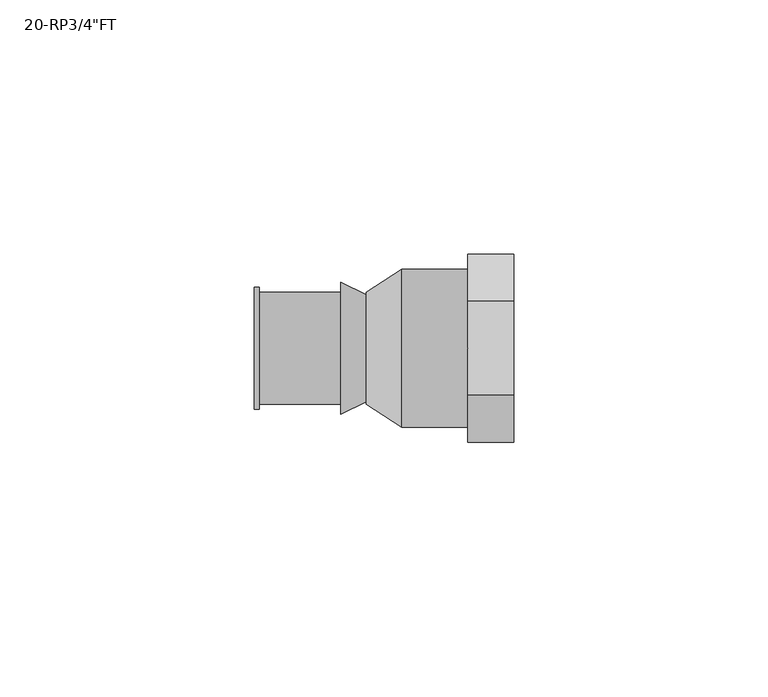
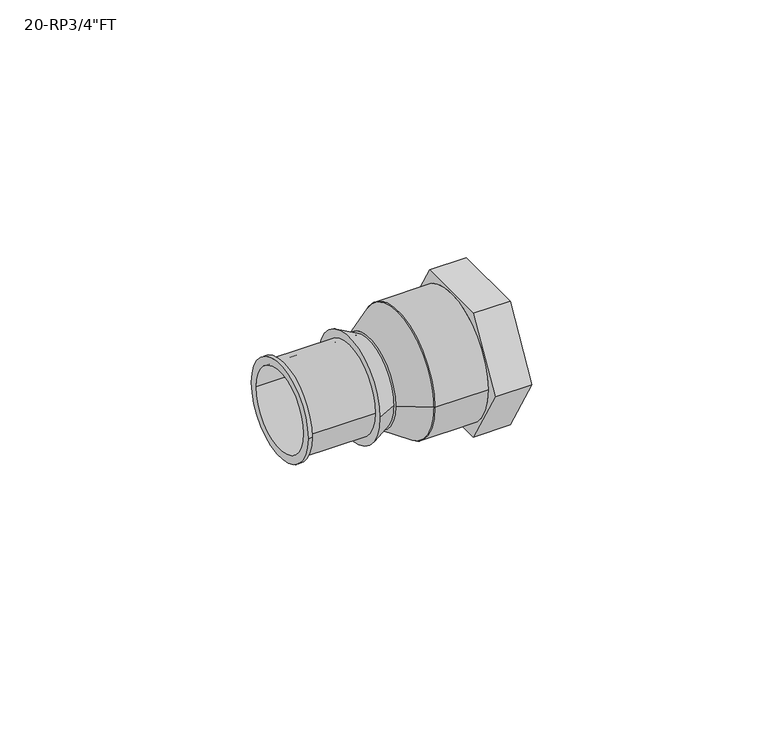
"""IFC4 building model written with IfcOpenShell, lengths in millimetres: pipe fitting geometry."""

from ifc_helpers import new_model, si_unit, frame, origin, place, context, project, spatial, polyline, circle_curve, source, transform, mapped, element, save
from ifc_brep_helpers import plane_surface, cylinder_surface, revolved_surface, advanced_brep


def pipe_fitting_40a9fcae(model_context):
    return source(origin(), model_context, "Body", "AdvancedBrep", [
        advanced_brep(
        [(2.0, -15.5, 0.0), (2.0, 15.5, 0.0), (2.0, -12.0, 0.0), (2.0, 12.0, 0.0), (24.0, -18.4752086, 0.0), (24.0, -9.2376043, -16.0), (24.0, 9.2376043, -16.0), (24.0, 18.4752086, 0.0), (24.0, 9.2376043, 16.0), (24.0, -9.2376043, 16.0), (24.0, -12.0, 0.0), (24.0, 12.0, 0.0), (15.0, -15.5, 0.0), (15.0, 15.5, 0.0), (15.0, -12.0, 0.0), (15.0, 12.0, 0.0), (15.0, -18.4752086, 0.0), (15.0, -9.2376043, 16.0), (15.0, 9.2376043, 16.0), (15.0, 18.4752086, 0.0), (15.0, 9.2376043, -16.0), (15.0, -9.2376043, -16.0)],
        [
            (0, 1, circle_curve(frame((2.0, 0.0, 0.0), z_axis=(-1.0, 0.0, 0.0), x_axis=(0.0, 1.0, 0.0)), 15.5)),
            (1, 0, circle_curve(frame((2.0, 0.0, 0.0), z_axis=(-1.0, 0.0, 0.0), x_axis=(0.0, 1.0, 0.0)), 15.5)),
            (2, 3, circle_curve(frame((2.0, 0.0, 0.0), z_axis=(1.0, 0.0, 0.0), x_axis=(0.0, 1.0, 0.0)), 12.0)),
            (3, 2, circle_curve(frame((2.0, 0.0, 0.0), z_axis=(1.0, 0.0, 0.0), x_axis=(0.0, 1.0, 0.0)), 12.0)),
            (4, 5),
            (5, 6),
            (6, 7),
            (7, 8),
            (8, 9),
            (9, 4),
            (10, 11, circle_curve(frame((24.0, 0.0, 0.0), z_axis=(-1.0, 0.0, 0.0), x_axis=(0.0, 1.0, 0.0)), 12.0)),
            (11, 10, circle_curve(frame((24.0, 0.0, 0.0), z_axis=(-1.0, 0.0, 0.0), x_axis=(0.0, 1.0, 0.0)), 12.0)),
            (0, 12),
            (12, 13, circle_curve(frame((15.0, 0.0, 0.0), z_axis=(-1.0, 0.0, 0.0), x_axis=(0.0, 1.0, 0.0)), 15.5)),
            (13, 1),
            (13, 12, circle_curve(frame((15.0, 0.0, 0.0), z_axis=(-1.0, 0.0, 0.0), x_axis=(0.0, 1.0, 0.0)), 15.5)),
            (2, 14),
            (14, 10),
            (11, 15),
            (15, 3),
            (16, 17),
            (17, 18),
            (18, 19),
            (19, 20),
            (20, 21),
            (21, 16),
            (16, 4),
            (9, 17),
            (8, 18),
            (7, 19),
            (6, 20),
            (5, 21),
        ],
        [
            plane_surface(frame((2.0, 0.0, 0.0), z_axis=(-1.0, 0.0, 0.0), x_axis=(0.0, 0.0, 1.0))),
            plane_surface(frame((24.0, 0.0, 0.0), z_axis=(1.0, 0.0, 0.0), x_axis=(0.0, 0.0, 1.0))),
            cylinder_surface(frame((2.0, 0.0, 0.0), z_axis=(-1.0, 0.0, 0.0), x_axis=(0.0, 1.0, 0.0)), 15.5),
            revolved_surface(polyline([(24.0, 12.0, 0.0), (2.0, 12.0, 0.0)]), (2.0, 0.0, 0.0), (1.0, 0.0, 0.0)),
            plane_surface(frame((15.0, 0.0, 0.0), z_axis=(-1.0, 0.0, 0.0), x_axis=(0.0, 0.0, 1.0))),
            plane_surface(frame((15.0, -18.4752086, 0.0), z_axis=(0.0, -0.8660254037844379, 0.5000000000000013), x_axis=(1.0, 0.0, 0.0))),
            plane_surface(frame((15.0, -9.2376043, 16.0), z_axis=(0.0, 0.0, 1.0), x_axis=(1.0, 0.0, 0.0))),
            plane_surface(frame((15.0, 9.2376043, 16.0), z_axis=(0.0, 0.8660254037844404, 0.49999999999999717), x_axis=(1.0, 0.0, 0.0))),
            plane_surface(frame((15.0, 18.4752086, 0.0), z_axis=(0.0, 0.8660254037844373, -0.5000000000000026), x_axis=(1.0, 0.0, 0.0))),
            plane_surface(frame((15.0, 9.2376043, -16.0), z_axis=(0.0, 0.0, -1.0), x_axis=(1.0, 0.0, 0.0))),
            plane_surface(frame((15.0, -9.2376043, -16.0), z_axis=(0.0, -0.8660254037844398, -0.49999999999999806), x_axis=(1.0, 0.0, 0.0))),
        ],
        [
            (0, [[1, 2], [3, 4]]),
            (1, [[5, 6, 7, 8, 9, 10], [11, 12]]),
            (2, [[-1, 13, 14, 15]]),
            (2, [[-2, -15, 16, -13]]),
            (3, [[-3, 17, 18, -12, 19, 20]]),
            (3, [[-4, -20, -19, -11, -18, -17]]),
            (4, [[21, 22, 23, 24, 25, 26], [-14, -16]]),
            (5, [[-21, 27, -10, 28]]),
            (6, [[-22, -28, -9, 29]]),
            (7, [[-23, -29, -8, 30]]),
            (8, [[-24, -30, -7, 31]]),
            (9, [[-25, -31, -6, 32]]),
            (10, [[-26, -32, -5, -27]]),
        ],
    ),
        advanced_brep(
        [(2.0, -15.5, 0.0), (2.0, 15.5, 0.0), (-5.0, -11.0, 0.0), (-5.0, 11.0, 0.0)],
        [
            (0, 1, circle_curve(frame((2.0, 0.0, 0.0), z_axis=(1.0, 0.0, 0.0), x_axis=(0.0, -1.0, 0.0)), 15.5)),
            (1, 0, circle_curve(frame((2.0, 0.0, 0.0), z_axis=(1.0, 0.0, 0.0), x_axis=(0.0, 1.0, 0.0)), 15.5)),
            (2, 3, circle_curve(frame((-5.0, 0.0, 0.0), z_axis=(-1.0, 0.0, 0.0), x_axis=(0.0, 1.0, 0.0)), 11.0)),
            (3, 2, circle_curve(frame((-5.0, 0.0, 0.0), z_axis=(-1.0, 0.0, 0.0), x_axis=(0.0, -1.0, 0.0)), 11.0)),
            (3, 1),
            (0, 2),
        ],
        [
            plane_surface(frame((2.0, 0.0, 0.0), z_axis=(1.0, 0.0, 0.0), x_axis=(0.0, 0.0, -1.0))),
            plane_surface(frame((-5.0, 0.0, 0.0), z_axis=(-1.0, 0.0, 0.0), x_axis=(0.0, 0.0, -1.0))),
            revolved_surface(polyline([(-5.0, 10.999999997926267, 0.0), (2.0, 15.5, 0.0)]), (-22.1111111, 0.0, 0.0), (1.0, 0.0, 0.0)),
            revolved_surface(polyline([(-5.0, -10.999999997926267, 0.0), (2.0, -15.5, 0.0)]), (-22.1111111, 0.0, 0.0), (1.0, 0.0, 0.0)),
        ],
        [
            (0, [[1, 2]]),
            (1, [[3, 4]]),
            (2, [[-4, 5, -1, 6]]),
            (3, [[-3, -6, -2, -5]]),
        ],
    ),
        advanced_brep(
        [(-27.0, -12.0, 0.0), (-27.0, 12.0, 0.0), (-27.0, -10.0, 0.0), (-27.0, 10.0, 0.0), (-10.0, -11.0, 0.0), (-10.0, 11.0, 0.0), (-10.0, -10.0, 0.0), (-10.0, 10.0, 0.0), (-26.0, 11.0, 0.0), (-26.0, -11.0, 0.0), (-26.0, -12.0, 0.0), (-26.0, 12.0, 0.0)],
        [
            (0, 1, circle_curve(frame((-27.0, 0.0, 0.0), z_axis=(-1.0, 0.0, 0.0), x_axis=(0.0, 1.0, 0.0)), 12.0)),
            (1, 0, circle_curve(frame((-27.0, 0.0, 0.0), z_axis=(-1.0, 0.0, 0.0), x_axis=(0.0, 1.0, 0.0)), 12.0)),
            (2, 3, circle_curve(frame((-27.0, 0.0, 0.0), z_axis=(1.0, 0.0, 0.0), x_axis=(0.0, 1.0, 0.0)), 10.0)),
            (3, 2, circle_curve(frame((-27.0, 0.0, 0.0), z_axis=(1.0, 0.0, 0.0), x_axis=(0.0, 1.0, 0.0)), 10.0)),
            (4, 5, circle_curve(frame((-10.0, 0.0, 0.0), z_axis=(1.0, 0.0, 0.0), x_axis=(0.0, 1.0, 0.0)), 11.0)),
            (5, 4, circle_curve(frame((-10.0, 0.0, 0.0), z_axis=(1.0, 0.0, 0.0), x_axis=(0.0, 1.0, 0.0)), 11.0)),
            (6, 7, circle_curve(frame((-10.0, 0.0, 0.0), z_axis=(-1.0, 0.0, 0.0), x_axis=(0.0, 1.0, 0.0)), 10.0)),
            (7, 6, circle_curve(frame((-10.0, 0.0, 0.0), z_axis=(-1.0, 0.0, 0.0), x_axis=(0.0, 1.0, 0.0)), 10.0)),
            (2, 6),
            (7, 3),
            (5, 8),
            (8, 9, circle_curve(frame((-26.0, 0.0, 0.0), z_axis=(1.0, 0.0, 0.0), x_axis=(0.0, 1.0, 0.0)), 11.0)),
            (9, 4),
            (9, 8, circle_curve(frame((-26.0, 0.0, 0.0), z_axis=(1.0, 0.0, 0.0), x_axis=(0.0, 1.0, 0.0)), 11.0)),
            (10, 11, circle_curve(frame((-26.0, 0.0, 0.0), z_axis=(1.0, 0.0, 0.0), x_axis=(0.0, 1.0, 0.0)), 12.0)),
            (11, 10, circle_curve(frame((-26.0, 0.0, 0.0), z_axis=(1.0, 0.0, 0.0), x_axis=(0.0, 1.0, 0.0)), 12.0)),
            (0, 10),
            (11, 1),
        ],
        [
            plane_surface(frame((-27.0, 0.0, 0.0), z_axis=(-1.0, 0.0, 0.0), x_axis=(0.0, 0.0, 1.0))),
            plane_surface(frame((-10.0, 0.0, 0.0), z_axis=(1.0, 0.0, 0.0), x_axis=(0.0, 0.0, 1.0))),
            revolved_surface(polyline([(-10.0, 10.0, 0.0), (-27.0, 10.0, 0.0)]), (-27.0, 0.0, 0.0), (1.0, 0.0, 0.0)),
            cylinder_surface(frame((-27.0, 0.0, 0.0), z_axis=(-1.0, 0.0, 0.0), x_axis=(0.0, 1.0, 0.0)), 11.0),
            plane_surface(frame((-26.0, 0.0, 0.0), z_axis=(1.0, 0.0, 0.0), x_axis=(0.0, 0.0, 1.0))),
            cylinder_surface(frame((-27.0, 0.0, 0.0), z_axis=(-1.0, 0.0, 0.0), x_axis=(0.0, 1.0, 0.0)), 12.0),
        ],
        [
            (0, [[1, 2], [3, 4]]),
            (1, [[5, 6], [7, 8]]),
            (2, [[-3, 9, -8, 10]]),
            (2, [[-4, -10, -7, -9]]),
            (3, [[-6, 11, 12, 13]]),
            (3, [[-5, -13, 14, -11]]),
            (4, [[15, 16], [-12, -14]]),
            (5, [[-1, 17, -16, 18]]),
            (5, [[-2, -18, -15, -17]]),
        ],
    ),
        advanced_brep(
        [(-5.0, -10.5, 0.0), (-5.0, 10.5, 0.0), (-5.0, 10.0, 0.0), (-5.0, -10.0, 0.0), (-10.0, -13.0, 0.0), (-10.0, 13.0, 0.0), (-10.0, -10.0, 0.0), (-10.0, 10.0, 0.0)],
        [
            (0, 1, circle_curve(frame((-5.0, 0.0, 0.0), z_axis=(1.0, 0.0, 0.0), x_axis=(0.0, -1.0, 0.0)), 10.5)),
            (1, 0, circle_curve(frame((-5.0, 0.0, 0.0), z_axis=(1.0, 0.0, 0.0), x_axis=(0.0, 1.0, 0.0)), 10.5)),
            (2, 3, circle_curve(frame((-5.0, 0.0, 0.0), z_axis=(-1.0, 0.0, 0.0), x_axis=(0.0, 1.0, 0.0)), 10.0)),
            (3, 2, circle_curve(frame((-5.0, 0.0, 0.0), z_axis=(-1.0, 0.0, 0.0), x_axis=(0.0, 1.0, 0.0)), 10.0)),
            (4, 5, circle_curve(frame((-10.0, 0.0, 0.0), z_axis=(-1.0, 0.0, 0.0), x_axis=(0.0, 1.0, 0.0)), 13.0)),
            (5, 4, circle_curve(frame((-10.0, 0.0, 0.0), z_axis=(-1.0, 0.0, 0.0), x_axis=(0.0, -1.0, 0.0)), 13.0)),
            (6, 7, circle_curve(frame((-10.0, 0.0, 0.0), z_axis=(1.0, 0.0, 0.0), x_axis=(0.0, 1.0, 0.0)), 10.0)),
            (7, 6, circle_curve(frame((-10.0, 0.0, 0.0), z_axis=(1.0, 0.0, 0.0), x_axis=(0.0, 1.0, 0.0)), 10.0)),
            (0, 4),
            (5, 1),
            (2, 7),
            (6, 3),
        ],
        [
            plane_surface(frame((-5.0, 0.0, 0.0), z_axis=(1.0, 0.0, 0.0), x_axis=(0.0, 0.0, -1.0))),
            plane_surface(frame((-10.0, 0.0, 0.0), z_axis=(-1.0, 0.0, 0.0), x_axis=(0.0, 0.0, -1.0))),
            revolved_surface(polyline([(-5.0, -10.5, 0.0), (-10.0, -13.0, 0.0)]), (16.0, 0.0, 0.0), (-1.0, 0.0, 0.0)),
            revolved_surface(polyline([(-5.0, 10.5, 0.0), (-10.0, 13.0, 0.0)]), (16.0, 0.0, 0.0), (-1.0, 0.0, 0.0)),
            revolved_surface(polyline([(-5.0, 10.0, 0.0), (-10.0, 10.0, 0.0)]), (-10.0, 0.0, 0.0), (1.0, 0.0, 0.0)),
        ],
        [
            (0, [[1, 2], [3, 4]]),
            (1, [[5, 6], [7, 8]]),
            (2, [[-1, 9, -6, 10]]),
            (3, [[-2, -10, -5, -9]]),
            (4, [[11, -7, 12, -3]]),
            (4, [[-11, -4, -12, -8]]),
        ],
    ),
    ])


if __name__ == "__main__":
    model = new_model("IFC4")
    model_context = context("Model", 3, world=origin())
    ifc_project = project(units=[si_unit("LENGTHUNIT", "METRE", prefix="MILLI")], contexts=[model_context])
    site = spatial("IfcSite", under=ifc_project)
    building = spatial("IfcBuilding", under=site)
    placement = place(None, origin())
    pipe_fitting_shape = pipe_fitting_40a9fcae(model_context)
    element("IfcPipeFitting", 1, ObjectType="SuperPipe_AdapterFT_MAX_RP : 20-RP3/4\"FT", at=placement, inside=building, context=model_context, shape_type="MappedRepresentation", body=[
        mapped(pipe_fitting_shape, transform((0.0, 0.0, 0.0), x_axis=(1.0, 0.0, 0.0), y_axis=(0.0, 1.0, 0.0), z_axis=(0.0, 0.0, 1.0))),
    ])
    save(model, "model.ifc")
